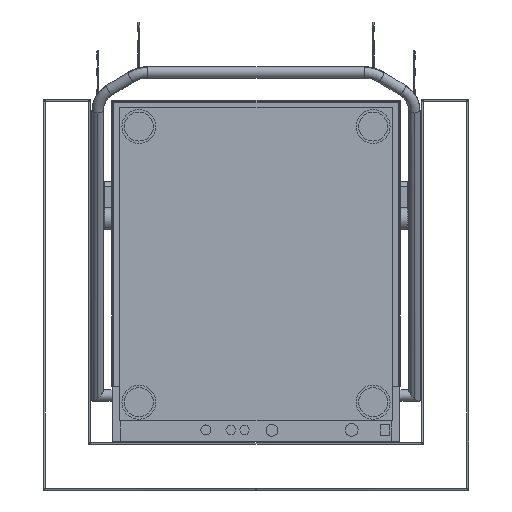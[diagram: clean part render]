
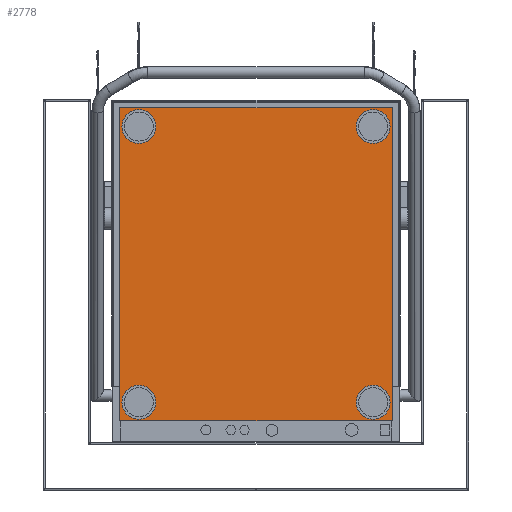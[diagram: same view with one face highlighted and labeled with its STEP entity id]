
A CAD part, front view. The second image highlights one B-rep face of the part: STEP entity #2778.
In plain terms, the highlighted planar face has unit normal (0, -1, 0).
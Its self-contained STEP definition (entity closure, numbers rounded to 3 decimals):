
#48 = ORIENTED_EDGE ( 'NONE', *, *, #13177, .F. ) ;
#235 = EDGE_CURVE ( 'NONE', #12613, #6854, #13048, .T. ) ;
#301 = VERTEX_POINT ( 'NONE', #5196 ) ;
#451 = EDGE_CURVE ( 'NONE', #301, #8422, #1652, .T. ) ;
#790 = CARTESIAN_POINT ( 'NONE',  ( 257., 0., 48.5 ) ) ;
#988 = EDGE_CURVE ( 'NONE', #2067, #7545, #8456, .T. ) ;
#1114 = CARTESIAN_POINT ( 'NONE',  ( 298.8, 0., 120.75 ) ) ;
#1369 = CARTESIAN_POINT ( 'NONE',  ( 257., 0., 690.75 ) ) ;
#1473 = DIRECTION ( 'NONE',  ( 1., 0., 0. ) ) ;
#1531 = FACE_BOUND ( 'NONE', #2251, .T. ) ;
#1651 = CARTESIAN_POINT ( 'NONE',  ( -257., 0., 653.5 ) ) ;
#1652 = LINE ( 'NONE', #3648, #5094 ) ;
#1718 = CARTESIAN_POINT ( 'NONE',  ( 257., 0., 728. ) ) ;
#2030 = EDGE_CURVE ( 'NONE', #12908, #10529, #11924, .T. ) ;
#2067 = VERTEX_POINT ( 'NONE', #790 ) ;
#2080 = DIRECTION ( 'NONE',  ( 0., 0., -1. ) ) ;
#2131 = DIRECTION ( 'NONE',  ( 0., 0., 1. ) ) ;
#2135 = AXIS2_PLACEMENT_3D ( 'NONE', #9643, #4542, #8532 ) ;
#2251 = EDGE_LOOP ( 'NONE', ( #4435, #48 ) ) ;
#2525 = EDGE_CURVE ( 'NONE', #11727, #4319, #5952, .T. ) ;
#2778 = ADVANCED_FACE ( 'NONE', ( #5468, #10607, #8211, #1531, #7249 ), #13305, .F. ) ;
#2911 = DIRECTION ( 'NONE',  ( 0., 0., 1. ) ) ;
#2978 = AXIS2_PLACEMENT_3D ( 'NONE', #5243, #4112, #2080 ) ;
#3108 = CARTESIAN_POINT ( 'NONE',  ( 298.8, 0., 44.75 ) ) ;
#3464 = DIRECTION ( 'NONE',  ( 0., 0., 1. ) ) ;
#3648 = CARTESIAN_POINT ( 'NONE',  ( -316.75, 0., 731.55 ) ) ;
#3727 = DIRECTION ( 'NONE',  ( 0., 0., -1. ) ) ;
#4025 = CARTESIAN_POINT ( 'NONE',  ( -316.75, 0., 748.25 ) ) ;
#4112 = DIRECTION ( 'NONE',  ( 0., 1., 0. ) ) ;
#4319 = VERTEX_POINT ( 'NONE', #11514 ) ;
#4435 = ORIENTED_EDGE ( 'NONE', *, *, #2525, .F. ) ;
#4436 = CARTESIAN_POINT ( 'NONE',  ( 257., 0., 123. ) ) ;
#4542 = DIRECTION ( 'NONE',  ( 0., 1., 0. ) ) ;
#4549 = ORIENTED_EDGE ( 'NONE', *, *, #11445, .T. ) ;
#4553 = CARTESIAN_POINT ( 'NONE',  ( 257., 0., 690.75 ) ) ;
#4706 = EDGE_LOOP ( 'NONE', ( #5011, #8984 ) ) ;
#4737 = DIRECTION ( 'NONE',  ( 0., 0., -1. ) ) ;
#4772 = AXIS2_PLACEMENT_3D ( 'NONE', #4025, #7280, #2131 ) ;
#4783 = ORIENTED_EDGE ( 'NONE', *, *, #451, .F. ) ;
#4818 = CARTESIAN_POINT ( 'NONE',  ( -257., 0., 85.75 ) ) ;
#4982 = CARTESIAN_POINT ( 'NONE',  ( -257., 0., 48.5 ) ) ;
#5011 = ORIENTED_EDGE ( 'NONE', *, *, #13456, .F. ) ;
#5094 = VECTOR ( 'NONE', #1473, 1000. ) ;
#5196 = CARTESIAN_POINT ( 'NONE',  ( -298.8, 0., 731.55 ) ) ;
#5243 = CARTESIAN_POINT ( 'NONE',  ( -257., 0., 85.75 ) ) ;
#5364 = VERTEX_POINT ( 'NONE', #9397 ) ;
#5468 = FACE_BOUND ( 'NONE', #11176, .T. ) ;
#5504 = ORIENTED_EDGE ( 'NONE', *, *, #11323, .T. ) ;
#5514 = AXIS2_PLACEMENT_3D ( 'NONE', #6029, #8070, #2911 ) ;
#5555 = LINE ( 'NONE', #1114, #6851 ) ;
#5569 = CARTESIAN_POINT ( 'NONE',  ( -257., 0., 728. ) ) ;
#5719 = DIRECTION ( 'NONE',  ( 0., -1., 0. ) ) ;
#5866 = AXIS2_PLACEMENT_3D ( 'NONE', #7801, #10877, #4737 ) ;
#5952 = CIRCLE ( 'NONE', #8729, 37.25 ) ;
#6029 = CARTESIAN_POINT ( 'NONE',  ( 257., 0., 85.75 ) ) ;
#6509 = CARTESIAN_POINT ( 'NONE',  ( -298.8, 0., 120.75 ) ) ;
#6660 = AXIS2_PLACEMENT_3D ( 'NONE', #6848, #5719, #7800 ) ;
#6697 = ORIENTED_EDGE ( 'NONE', *, *, #2030, .T. ) ;
#6848 = CARTESIAN_POINT ( 'NONE',  ( 257., 0., 85.75 ) ) ;
#6851 = VECTOR ( 'NONE', #11317, 1000. ) ;
#6854 = VERTEX_POINT ( 'NONE', #11124 ) ;
#6892 = DIRECTION ( 'NONE',  ( 0., 1., 0. ) ) ;
#7021 = VERTEX_POINT ( 'NONE', #3108 ) ;
#7249 = FACE_OUTER_BOUND ( 'NONE', #11391, .T. ) ;
#7280 = DIRECTION ( 'NONE',  ( 0., 1., 0. ) ) ;
#7545 = VERTEX_POINT ( 'NONE', #4436 ) ;
#7800 = DIRECTION ( 'NONE',  ( 0., 0., 1. ) ) ;
#7801 = CARTESIAN_POINT ( 'NONE',  ( -257., 0., 690.75 ) ) ;
#8070 = DIRECTION ( 'NONE',  ( 0., -1., 0. ) ) ;
#8151 = CARTESIAN_POINT ( 'NONE',  ( -316.75, 0., 44.75 ) ) ;
#8211 = FACE_BOUND ( 'NONE', #4706, .T. ) ;
#8422 = VERTEX_POINT ( 'NONE', #13320 ) ;
#8456 = CIRCLE ( 'NONE', #6660, 37.25 ) ;
#8475 = DIRECTION ( 'NONE',  ( 0., -1., 0. ) ) ;
#8486 = DIRECTION ( 'NONE',  ( 0., 0., 1. ) ) ;
#8532 = DIRECTION ( 'NONE',  ( 0., 0., -1. ) ) ;
#8729 = AXIS2_PLACEMENT_3D ( 'NONE', #4553, #12806, #9788 ) ;
#8921 = CIRCLE ( 'NONE', #10411, 37.25 ) ;
#8939 = LINE ( 'NONE', #8151, #13516 ) ;
#8984 = ORIENTED_EDGE ( 'NONE', *, *, #988, .F. ) ;
#9186 = VECTOR ( 'NONE', #8486, 1000. ) ;
#9247 = CIRCLE ( 'NONE', #9959, 37.25 ) ;
#9397 = CARTESIAN_POINT ( 'NONE',  ( -298.8, 0., 44.75 ) ) ;
#9643 = CARTESIAN_POINT ( 'NONE',  ( -257., 0., 690.75 ) ) ;
#9788 = DIRECTION ( 'NONE',  ( 0., 0., 1. ) ) ;
#9938 = CIRCLE ( 'NONE', #5514, 37.25 ) ;
#9959 = AXIS2_PLACEMENT_3D ( 'NONE', #4818, #6892, #3727 ) ;
#10092 = ORIENTED_EDGE ( 'NONE', *, *, #10156, .T. ) ;
#10099 = EDGE_CURVE ( 'NONE', #5364, #301, #10959, .T. ) ;
#10156 = EDGE_CURVE ( 'NONE', #10529, #12908, #12412, .T. ) ;
#10411 = AXIS2_PLACEMENT_3D ( 'NONE', #1369, #8475, #3464 ) ;
#10529 = VERTEX_POINT ( 'NONE', #1651 ) ;
#10607 = FACE_BOUND ( 'NONE', #12571, .T. ) ;
#10877 = DIRECTION ( 'NONE',  ( 0., 1., 0. ) ) ;
#10959 = LINE ( 'NONE', #6509, #9186 ) ;
#11124 = CARTESIAN_POINT ( 'NONE',  ( -257., 0., 123. ) ) ;
#11143 = DIRECTION ( 'NONE',  ( 1., 0., 0. ) ) ;
#11167 = EDGE_CURVE ( 'NONE', #6854, #12613, #9247, .T. ) ;
#11176 = EDGE_LOOP ( 'NONE', ( #13425, #12544 ) ) ;
#11317 = DIRECTION ( 'NONE',  ( 0., 0., 1. ) ) ;
#11323 = EDGE_CURVE ( 'NONE', #5364, #7021, #8939, .T. ) ;
#11391 = EDGE_LOOP ( 'NONE', ( #13025, #5504, #4549, #4783 ) ) ;
#11445 = EDGE_CURVE ( 'NONE', #7021, #8422, #5555, .T. ) ;
#11514 = CARTESIAN_POINT ( 'NONE',  ( 257., 0., 653.5 ) ) ;
#11727 = VERTEX_POINT ( 'NONE', #1718 ) ;
#11924 = CIRCLE ( 'NONE', #5866, 37.25 ) ;
#12412 = CIRCLE ( 'NONE', #2135, 37.25 ) ;
#12544 = ORIENTED_EDGE ( 'NONE', *, *, #235, .T. ) ;
#12571 = EDGE_LOOP ( 'NONE', ( #6697, #10092 ) ) ;
#12613 = VERTEX_POINT ( 'NONE', #4982 ) ;
#12806 = DIRECTION ( 'NONE',  ( 0., -1., 0. ) ) ;
#12908 = VERTEX_POINT ( 'NONE', #5569 ) ;
#13025 = ORIENTED_EDGE ( 'NONE', *, *, #10099, .F. ) ;
#13048 = CIRCLE ( 'NONE', #2978, 37.25 ) ;
#13177 = EDGE_CURVE ( 'NONE', #4319, #11727, #8921, .T. ) ;
#13305 = PLANE ( 'NONE',  #4772 ) ;
#13320 = CARTESIAN_POINT ( 'NONE',  ( 298.8, 0., 731.55 ) ) ;
#13425 = ORIENTED_EDGE ( 'NONE', *, *, #11167, .T. ) ;
#13456 = EDGE_CURVE ( 'NONE', #7545, #2067, #9938, .T. ) ;
#13516 = VECTOR ( 'NONE', #11143, 1000. ) ;
